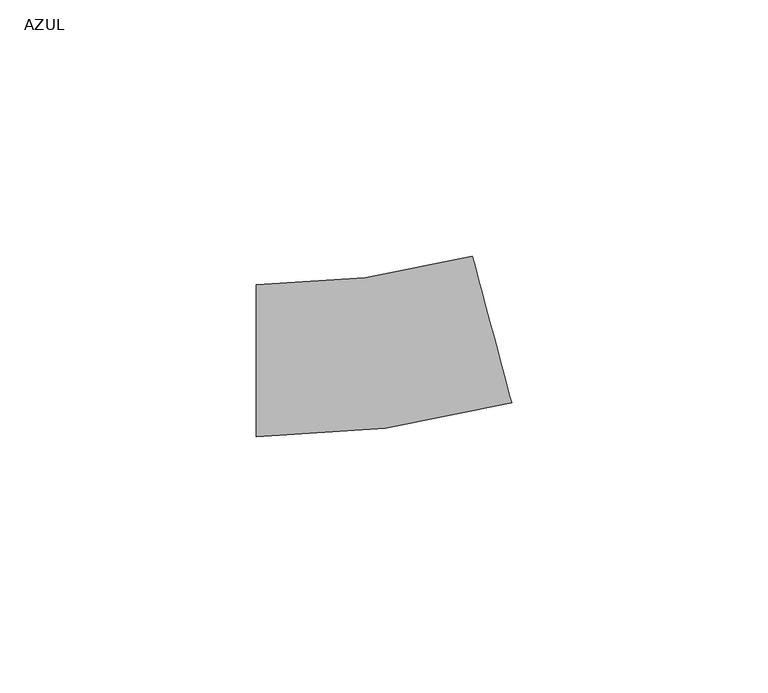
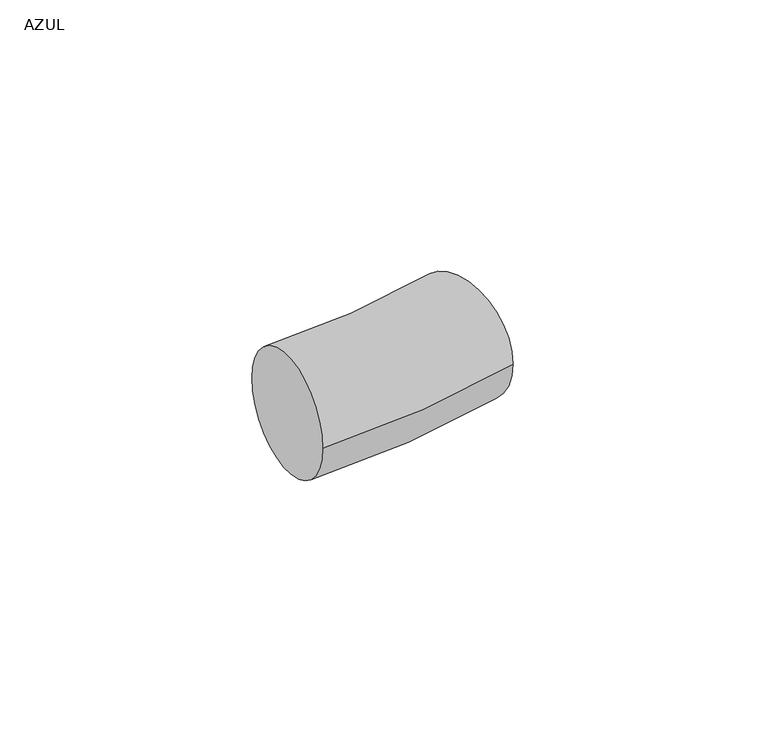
"""IFC4 building model written with IfcOpenShell, lengths in millimetres: pipe fitting geometry, AmancoWavin_UnionesdeTubería_TigrisFlexTuberíaFlexible : AZUL."""

from ifc_helpers import new_model, si_unit, point, frame, origin, place, context, project, spatial, circle_curve, ellipse_curve, trimmed, source, transform, mapped, element, save
from ifc_brep_helpers import plane_surface, revolved_surface, advanced_brep


def azul_21f91044(model_context):
    return source(origin(), model_context, "Body", "AdvancedBrep", [
        advanced_brep(
        [(-23.3814836, -14.8, 0.0), (-23.3814836, 14.8, 0.0), (26.4153007, -8.244129, 0.0), (18.754257, 20.3472755, 0.0)],
        [
            (0, 1, circle_curve(frame((-23.3814836, 0.0, 0.0), z_axis=(-1.0, 0.0, 0.0), x_axis=(0.0, 1.0, 0.0)), 14.8)),
            (1, 0, circle_curve(frame((-23.3814836, 0.0, 0.0), z_axis=(-1.0, 0.0, 0.0), x_axis=(0.0, 1.0, 0.0)), 14.8)),
            (2, 3, circle_curve(frame((22.5847788, 6.0515733, 0.0), z_axis=(0.9659258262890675, 0.2588190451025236, 0.0), x_axis=(-0.2588190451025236, 0.9659258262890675, 0.0)), 14.8)),
            (3, 2, circle_curve(frame((22.5847788, 6.0515733, 0.0), z_axis=(0.9659258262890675, 0.2588190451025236, 0.0), x_axis=(-0.2588190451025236, 0.9659258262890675, 0.0)), 14.8)),
            (3, 1, circle_curve(frame((-23.3814836, 177.6, 0.0), z_axis=(0.0, 0.0, -1.0), x_axis=(0.0, -1.0, 0.0)), 162.8)),
            (0, 2, circle_curve(frame((-23.3814836, 177.6, 0.0), z_axis=(0.0, 0.0, 1.0), x_axis=(0.0, -1.0, 0.0)), 192.4)),
        ],
        [
            plane_surface(frame((-23.3814836, 0.0, 0.0), z_axis=(-1.0, 0.0, 0.0), x_axis=(0.0, 0.0, 1.0))),
            plane_surface(frame((22.5847788, 6.0515733, 0.0), z_axis=(0.9659258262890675, 0.25881904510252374, 0.0), x_axis=(0.0, 0.0, 1.0))),
            revolved_surface(trimmed(ellipse_curve(frame((-23.3814836, 0.0, 0.0), z_axis=(-1.0, 0.0, 0.0), x_axis=(0.0, 1.0, 0.0)), 14.8, 14.8), [point((-23.3814836, -14.8, 0.0))], [point((-23.3814836, 14.8, 0.0))], True, "CARTESIAN"), (-23.3814836, 177.6, 0.0), (0.0, 0.0, 1.0)),
            revolved_surface(trimmed(ellipse_curve(frame((-23.3814836, 0.0, 0.0), z_axis=(-1.0, 0.0, 0.0), x_axis=(0.0, 1.0, 0.0)), 14.8, 14.8), [point((-23.3814836, 14.8, 0.0))], [point((-23.3814836, -14.8, 0.0))], True, "CARTESIAN"), (-23.3814836, 177.6, 0.0), (0.0, 0.0, 1.0)),
        ],
        [
            (0, [[1, 2]]),
            (1, [[3, 4]]),
            (2, [[5, -1, 6, -4]]),
            (3, [[-6, -2, -5, -3]]),
        ],
    ),
    ])


if __name__ == "__main__":
    model = new_model("IFC4")
    model_context = context("Model", 3, world=origin())
    ifc_project = project(units=[si_unit("LENGTHUNIT", "METRE", prefix="MILLI")], contexts=[model_context])
    site = spatial("IfcSite", under=ifc_project)
    building = spatial("IfcBuilding", under=site)
    placement = place(None, origin())
    azul_shape = azul_21f91044(model_context)
    element("IfcPipeFitting", 1, ObjectType="AmancoWavin_UnionesdeTubería_TigrisFlexTuberíaFlexible : AZUL", at=placement, inside=building, context=model_context, shape_type="MappedRepresentation", body=[
        mapped(azul_shape, transform((0.0, 0.0, 0.0), x_axis=(1.0, 0.0, 0.0), y_axis=(0.0, 1.0, 0.0), z_axis=(0.0, 0.0, 1.0))),
    ])
    save(model, "model.ifc")
